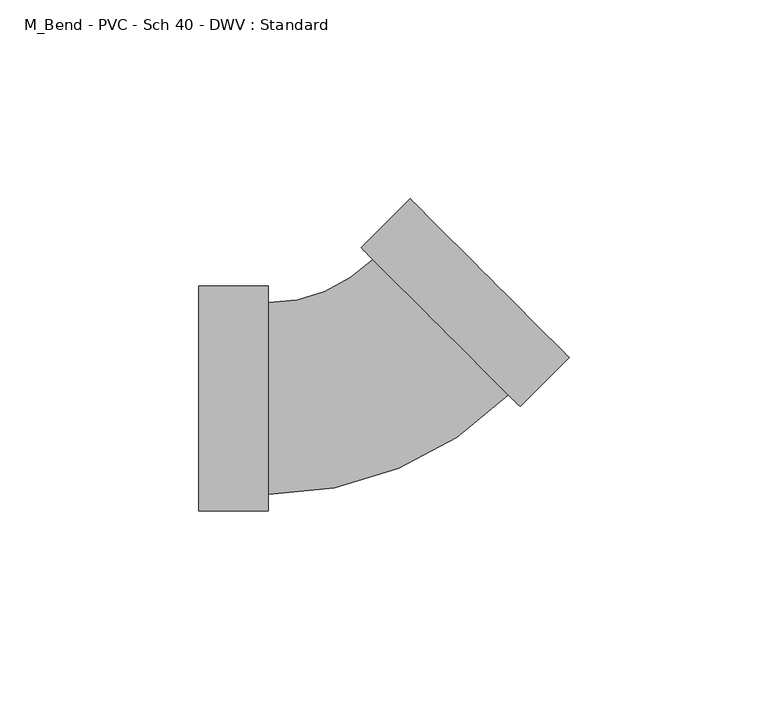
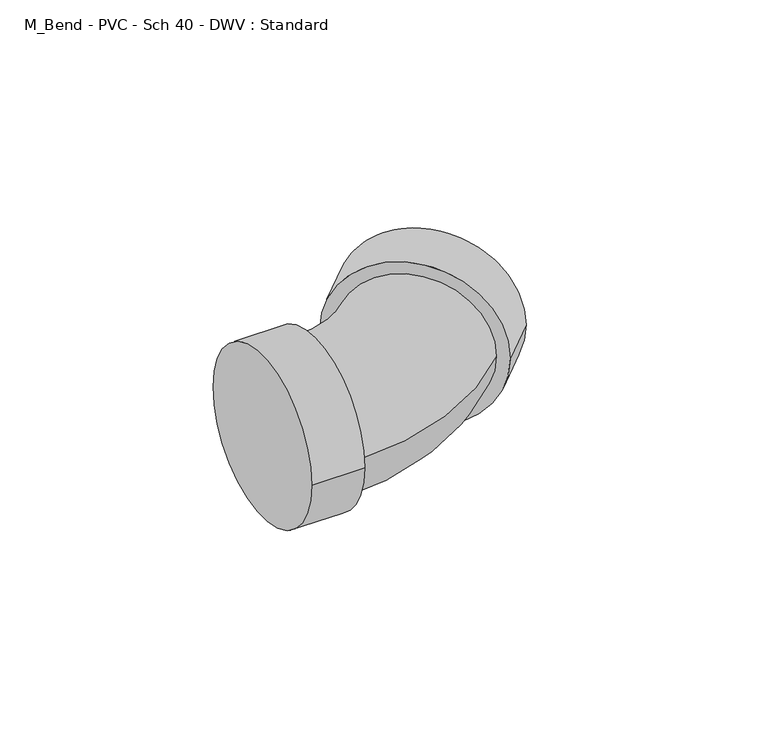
"""IFC4 building model written with IfcOpenShell, lengths in millimetres: pipe fitting geometry, M_Bend - PVC - Sch 40 - DWV : Standard."""

from ifc_helpers import new_model, si_unit, point, frame, origin, place, context, project, spatial, circle_curve, ellipse_curve, trimmed, source, transform, mapped, element, save
from ifc_brep_helpers import plane_surface, cylinder_surface, revolved_surface, advanced_brep


def m_bend_pvc_sch_40_dwv_standard_6ab8a483(model_context):
    return source(origin(), model_context, "Body", "AdvancedBrep", [
        advanced_brep(
        [(-42.8498, -28.2829, 0.0), (-42.8498, 28.2829, 0.0), (-25.4, -28.2829, 0.0), (-25.4, 28.2829, 0.0), (-25.4, -24.13, 0.0), (-25.4, 24.13, 0.0), (0.8980031, 35.0229994, 0.0), (35.0229983, 0.8980481, 0.0), (37.9595439, -2.0384938, 0.0), (-2.0385425, 37.9595413, 0.0), (50.2984079, 10.3003861, 0.0), (10.3003215, 50.2984212, 0.0)],
        [
            (0, 1, circle_curve(frame((-42.8498, 0.0, 0.0), z_axis=(-1.0, 0.0, 0.0), x_axis=(0.0, 1.0, 0.0)), 28.2829)),
            (1, 0, circle_curve(frame((-42.8498, 0.0, 0.0), z_axis=(-1.0, 0.0, 0.0), x_axis=(0.0, 1.0, 0.0)), 28.2829)),
            (2, 3, circle_curve(frame((-25.4, 0.0, 0.0), z_axis=(1.0, 0.0, 0.0), x_axis=(0.0, 1.0, 0.0)), 28.2829)),
            (3, 2, circle_curve(frame((-25.4, 0.0, 0.0), z_axis=(1.0, 0.0, 0.0), x_axis=(0.0, 1.0, 0.0)), 28.2829)),
            (4, 5, circle_curve(frame((-25.4, 0.0, 0.0), z_axis=(-1.0, 0.0, 0.0), x_axis=(0.0, 1.0, 0.0)), 24.13)),
            (5, 4, circle_curve(frame((-25.4, 0.0, 0.0), z_axis=(-1.0, 0.0, 0.0), x_axis=(0.0, 1.0, 0.0)), 24.13)),
            (0, 2),
            (3, 1),
            (6, 5, circle_curve(frame((-25.4, 61.3209688, 0.0), z_axis=(0.0, 0.0, -1.0), x_axis=(0.0, -1.0, 0.0)), 37.1909688)),
            (4, 7, circle_curve(frame((-25.4, 61.3209688, 0.0), z_axis=(0.0, 0.0, 1.0), x_axis=(0.0, -1.0, 0.0)), 85.4509688)),
            (7, 6, circle_curve(frame((17.9605007, 17.9605238, 0.0), z_axis=(-0.7071063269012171, -0.707107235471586, 0.0), x_axis=(-0.707107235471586, 0.7071063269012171, 0.0)), 24.13)),
            (6, 7, circle_curve(frame((17.9605007, 17.9605238, 0.0), z_axis=(-0.7071063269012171, -0.707107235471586, 0.0), x_axis=(-0.707107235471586, 0.7071063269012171, 0.0)), 24.13)),
            (8, 9, circle_curve(frame((17.9605007, 17.9605238, 0.0), z_axis=(-0.7071063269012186, -0.7071072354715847, 0.0), x_axis=(-0.7071072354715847, 0.7071063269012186, 0.0)), 28.2829)),
            (9, 8, circle_curve(frame((17.9605007, 17.9605238, 0.0), z_axis=(-0.7071063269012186, -0.7071072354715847, 0.0), x_axis=(-0.7071072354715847, 0.7071063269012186, 0.0)), 28.2829)),
            (10, 11, circle_curve(frame((30.2993647, 30.2994036, 0.0), z_axis=(0.7071063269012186, 0.7071072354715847, 0.0), x_axis=(-0.7071072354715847, 0.7071063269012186, 0.0)), 28.2829)),
            (11, 10, circle_curve(frame((30.2993647, 30.2994036, 0.0), z_axis=(0.7071063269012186, 0.7071072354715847, 0.0), x_axis=(-0.7071072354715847, 0.7071063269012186, 0.0)), 28.2829)),
            (8, 10),
            (11, 9),
        ],
        [
            plane_surface(frame((-42.8498, 0.0, 0.0), z_axis=(-1.0, 0.0, 0.0), x_axis=(0.0, 0.0, 1.0))),
            plane_surface(frame((-25.4, 0.0, 0.0), z_axis=(1.0, 0.0, 0.0), x_axis=(0.0, 0.0, 1.0))),
            cylinder_surface(frame((-42.8498, 0.0, 0.0), z_axis=(-1.0, 0.0, 0.0), x_axis=(0.0, 1.0, 0.0)), 28.2829),
            revolved_surface(trimmed(ellipse_curve(frame((-25.4, 0.0, 0.0), z_axis=(-1.0, 0.0, 0.0), x_axis=(0.0, 1.0, 0.0)), 24.13, 24.13), [point((-25.4, -24.13, 0.0))], [point((-25.4, 24.13, 0.0))], True, "CARTESIAN"), (-25.4, 61.3209688, 0.0), (0.0, 0.0, 1.0)),
            revolved_surface(trimmed(ellipse_curve(frame((-25.4, 0.0, 0.0), z_axis=(-1.0, 0.0, 0.0), x_axis=(0.0, 1.0, 0.0)), 24.13, 24.13), [point((-25.4, 24.13, 0.0))], [point((-25.4, -24.13, 0.0))], True, "CARTESIAN"), (-25.4, 61.3209688, 0.0), (0.0, 0.0, 1.0)),
            plane_surface(frame((17.9605007, 17.9605238, 0.0), z_axis=(-0.7071063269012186, -0.7071072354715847, 0.0), x_axis=(0.0, 0.0, 1.0))),
            plane_surface(frame((30.2993647, 30.2994036, 0.0), z_axis=(0.7071063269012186, 0.7071072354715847, 0.0), x_axis=(0.0, 0.0, 1.0))),
            cylinder_surface(frame((17.9605007, 17.9605238, 0.0), z_axis=(-0.7071063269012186, -0.7071072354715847, 0.0), x_axis=(-0.7071072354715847, 0.7071063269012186, 0.0)), 28.2829),
        ],
        [
            (0, [[1, 2]]),
            (1, [[3, 4], [5, 6]]),
            (2, [[-1, 7, -4, 8]]),
            (2, [[-2, -8, -3, -7]]),
            (3, [[9, -5, 10, 11]]),
            (4, [[-9, 12, -10, -6]]),
            (5, [[13, 14], [-11, -12]]),
            (6, [[15, 16]]),
            (7, [[-13, 17, -16, 18]]),
            (7, [[-14, -18, -15, -17]]),
        ],
    ),
    ])


if __name__ == "__main__":
    model = new_model("IFC4")
    model_context = context("Model", 3, world=origin())
    ifc_project = project(units=[si_unit("LENGTHUNIT", "METRE", prefix="MILLI")], contexts=[model_context])
    site = spatial("IfcSite", under=ifc_project)
    building = spatial("IfcBuilding", under=site)
    placement = place(None, origin())
    m_bend_pvc_sch_40_dwv_standard_shape = m_bend_pvc_sch_40_dwv_standard_6ab8a483(model_context)
    element("IfcPipeFitting", 1, ObjectType="M_Bend - PVC - Sch 40 - DWV : Standard", at=placement, inside=building, context=model_context, shape_type="MappedRepresentation", body=[
        mapped(m_bend_pvc_sch_40_dwv_standard_shape, transform((0.0, 0.0, 0.0), x_axis=(1.0, 0.0, 0.0), y_axis=(0.0, 1.0, 0.0), z_axis=(0.0, 0.0, 1.0))),
    ])
    save(model, "model.ifc")
